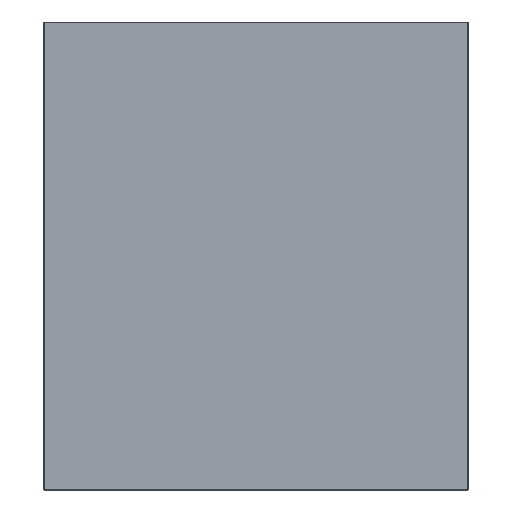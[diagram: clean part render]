
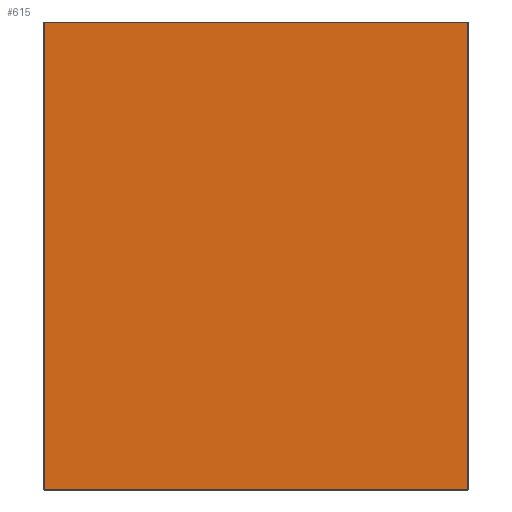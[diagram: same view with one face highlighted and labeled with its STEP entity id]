
A CAD part, front view. The second image highlights one B-rep face of the part: STEP entity #615.
In plain terms, the highlighted planar face has unit normal (0, -1, 0).
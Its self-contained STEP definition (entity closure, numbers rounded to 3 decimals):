
#12 = LINE ( 'NONE', #183, #35 ) ;
#31 = VERTEX_POINT ( 'NONE', #122 ) ;
#35 = VECTOR ( 'NONE', #412, 1000. ) ;
#36 = DIRECTION ( 'NONE',  ( 0., 0., 1. ) ) ;
#53 = AXIS2_PLACEMENT_3D ( 'NONE', #243, #275, #36 ) ;
#111 = FACE_OUTER_BOUND ( 'NONE', #543, .T. ) ;
#122 = CARTESIAN_POINT ( 'NONE',  ( 247., 0., 272. ) ) ;
#131 = VERTEX_POINT ( 'NONE', #487 ) ;
#159 = VERTEX_POINT ( 'NONE', #371 ) ;
#174 = DIRECTION ( 'NONE',  ( 1., 0., 0. ) ) ;
#183 = CARTESIAN_POINT ( 'NONE',  ( 247., 0., 0. ) ) ;
#201 = CARTESIAN_POINT ( 'NONE',  ( 0., 0., 272. ) ) ;
#219 = DIRECTION ( 'NONE',  ( 0., 0., -1. ) ) ;
#243 = CARTESIAN_POINT ( 'NONE',  ( 0., 0., 0. ) ) ;
#253 = DIRECTION ( 'NONE',  ( -1., 0., 0. ) ) ;
#275 = DIRECTION ( 'NONE',  ( 0., 1., 0. ) ) ;
#278 = ORIENTED_EDGE ( 'NONE', *, *, #599, .T. ) ;
#284 = EDGE_CURVE ( 'NONE', #372, #159, #620, .T. ) ;
#312 = CARTESIAN_POINT ( 'NONE',  ( -247., 0., 0. ) ) ;
#314 = VECTOR ( 'NONE', #253, 1000. ) ;
#343 = LINE ( 'NONE', #201, #314 ) ;
#371 = CARTESIAN_POINT ( 'NONE',  ( 247., 0., -272. ) ) ;
#372 = VERTEX_POINT ( 'NONE', #610 ) ;
#396 = EDGE_CURVE ( 'NONE', #131, #372, #470, .T. ) ;
#412 = DIRECTION ( 'NONE',  ( 0., 0., 1. ) ) ;
#442 = VECTOR ( 'NONE', #219, 1000. ) ;
#470 = LINE ( 'NONE', #312, #442 ) ;
#471 = EDGE_CURVE ( 'NONE', #31, #131, #343, .T. ) ;
#472 = VECTOR ( 'NONE', #174, 1000. ) ;
#487 = CARTESIAN_POINT ( 'NONE',  ( -247., 0., 272. ) ) ;
#488 = ORIENTED_EDGE ( 'NONE', *, *, #471, .T. ) ;
#543 = EDGE_LOOP ( 'NONE', ( #278, #488, #640, #586 ) ) ;
#556 = CARTESIAN_POINT ( 'NONE',  ( 0., 0., -272. ) ) ;
#573 = PLANE ( 'NONE',  #53 ) ;
#586 = ORIENTED_EDGE ( 'NONE', *, *, #284, .T. ) ;
#599 = EDGE_CURVE ( 'NONE', #159, #31, #12, .T. ) ;
#610 = CARTESIAN_POINT ( 'NONE',  ( -247., 0., -272. ) ) ;
#615 = ADVANCED_FACE ( 'NONE', ( #111 ), #573, .F. ) ;
#620 = LINE ( 'NONE', #556, #472 ) ;
#640 = ORIENTED_EDGE ( 'NONE', *, *, #396, .T. ) ;
